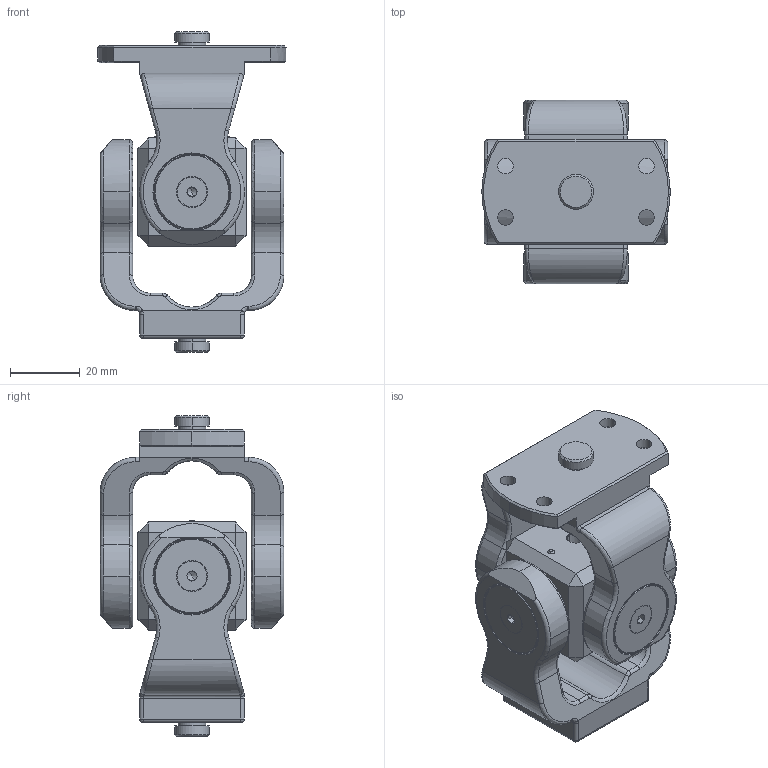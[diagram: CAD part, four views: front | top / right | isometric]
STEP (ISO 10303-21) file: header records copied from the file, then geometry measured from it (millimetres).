
FILE_DESCRIPTION (( 'STEP AP203' ), '1' );
FILE_NAME ('HJ-Y-03.STEP', '2022-04-08T08:28:27', ( 'Windows 蚚誧' ), ( '' ), 'SwSTEP 2.0', 'SolidWorks 2020', '' );
FILE_SCHEMA (( 'CONFIG_CONTROL_DESIGN' ));
Length unit declared in the file: millimetre
Products named in the file (1): HJ-Y-03
Bounding box: 54 x 52.6 x 92 mm (x, y, z)
Surface area: 27246 mm2 (no closed solid volume)
Topology: 0 solids, 23 shells, 399 faces, 990 edges, 601 vertices
Faces by surface type: cylinder 131, plane 108, cone 78, bspline 42, torus 36, sphere 4
Entity records: 12912 total; most frequent: CARTESIAN_POINT 3765, DIRECTION 1953, ORIENTED_EDGE 1836, EDGE_CURVE 978, AXIS2_PLACEMENT_3D 801, VERTEX_POINT 601, CIRCLE 443, EDGE_LOOP 439
